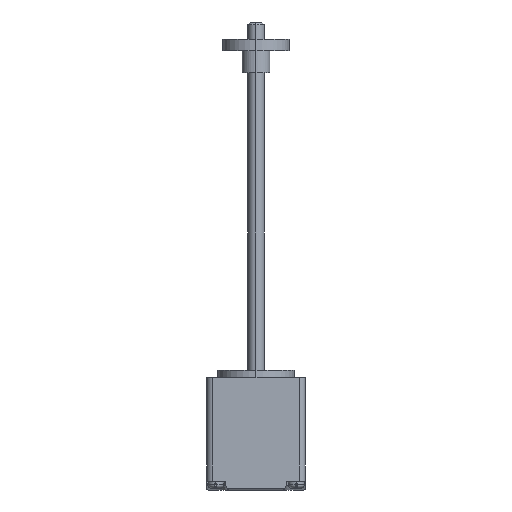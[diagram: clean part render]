
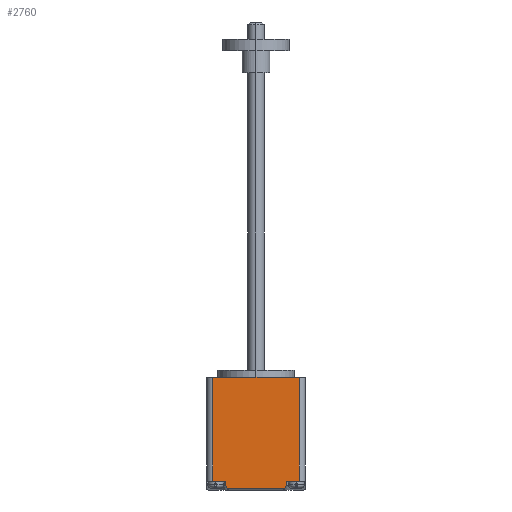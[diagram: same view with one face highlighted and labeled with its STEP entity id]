
A CAD part, left-side view. The second image highlights one B-rep face of the part: STEP entity #2760.
In plain terms, the highlighted planar face has unit normal (-1, 0, 0).
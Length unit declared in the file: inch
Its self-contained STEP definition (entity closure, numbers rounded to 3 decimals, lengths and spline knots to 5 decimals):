
#9 = VECTOR ( 'NONE', #6427, 39.37008 ) ;
#245 = LINE ( 'NONE', #3771, #5655 ) ;
#418 = ORIENTED_EDGE ( 'NONE', *, *, #1376, .F. ) ;
#517 = VERTEX_POINT ( 'NONE', #6139 ) ;
#607 = VECTOR ( 'NONE', #3156, 39.37008 ) ;
#788 = EDGE_CURVE ( 'NONE', #3969, #3251, #3159, .T. ) ;
#836 = LINE ( 'NONE', #6046, #1744 ) ;
#1112 = EDGE_CURVE ( 'NONE', #6973, #3969, #2328, .T. ) ;
#1150 = CARTESIAN_POINT ( 'NONE',  ( -0.555, -0.485, 1.268 ) ) ;
#1358 = DIRECTION ( 'NONE',  ( 0., 1., 0. ) ) ;
#1366 = CARTESIAN_POINT ( 'NONE',  ( -0.555, 0.555, 0.015 ) ) ;
#1373 = ORIENTED_EDGE ( 'NONE', *, *, #2488, .F. ) ;
#1376 = EDGE_CURVE ( 'NONE', #5072, #6931, #6063, .T. ) ;
#1386 = DIRECTION ( 'NONE',  ( 0., 1., 0. ) ) ;
#1463 = DIRECTION ( 'NONE',  ( 0., 1., 0. ) ) ;
#1720 = EDGE_CURVE ( 'NONE', #3251, #3533, #3198, .T. ) ;
#1744 = VECTOR ( 'NONE', #3258, 39.37008 ) ;
#1941 = VECTOR ( 'NONE', #2215, 39.37008 ) ;
#2025 = DIRECTION ( 'NONE',  ( 0., 0., -1. ) ) ;
#2029 = DIRECTION ( 'NONE',  ( 0., -1., 0. ) ) ;
#2201 = ORIENTED_EDGE ( 'NONE', *, *, #7326, .T. ) ;
#2215 = DIRECTION ( 'NONE',  ( 0., -0.5, -0.866 ) ) ;
#2239 = DIRECTION ( 'NONE',  ( 0., 0., 1. ) ) ;
#2328 = LINE ( 'NONE', #2913, #1941 ) ;
#2488 = EDGE_CURVE ( 'NONE', #6230, #3533, #3120, .T. ) ;
#2534 = CARTESIAN_POINT ( 'NONE',  ( -0.555, 0.555, 1.268 ) ) ;
#2548 = CARTESIAN_POINT ( 'NONE',  ( -0.555, -0.343, 0.05196 ) ) ;
#2583 = DIRECTION ( 'NONE',  ( 0., -0.5, 0.866 ) ) ;
#2618 = VERTEX_POINT ( 'NONE', #5106 ) ;
#2751 = VECTOR ( 'NONE', #2239, 39.37008 ) ;
#2760 = ADVANCED_FACE ( 'NONE', ( #4873 ), #6004, .F. ) ;
#2801 = VECTOR ( 'NONE', #1463, 39.37008 ) ;
#2913 = CARTESIAN_POINT ( 'NONE',  ( -0.555, 0.343, 0.05196 ) ) ;
#2967 = EDGE_CURVE ( 'NONE', #2618, #5340, #4635, .T. ) ;
#3120 = LINE ( 'NONE', #7175, #607 ) ;
#3156 = DIRECTION ( 'NONE',  ( 0., 0., -1. ) ) ;
#3159 = LINE ( 'NONE', #1366, #3294 ) ;
#3198 = LINE ( 'NONE', #2548, #6465 ) ;
#3247 = CARTESIAN_POINT ( 'NONE',  ( -0.555, 0.343, 0.1 ) ) ;
#3251 = VERTEX_POINT ( 'NONE', #6904 ) ;
#3258 = DIRECTION ( 'NONE',  ( 0., 0., -1. ) ) ;
#3294 = VECTOR ( 'NONE', #2029, 39.37008 ) ;
#3374 = ORIENTED_EDGE ( 'NONE', *, *, #4210, .F. ) ;
#3388 = CARTESIAN_POINT ( 'NONE',  ( -0.555, 0.343, 0.05196 ) ) ;
#3533 = VERTEX_POINT ( 'NONE', #4026 ) ;
#3558 = ORIENTED_EDGE ( 'NONE', *, *, #1112, .T. ) ;
#3771 = CARTESIAN_POINT ( 'NONE',  ( -0.555, -0.555, 0.1 ) ) ;
#3897 = ORIENTED_EDGE ( 'NONE', *, *, #1720, .T. ) ;
#3969 = VERTEX_POINT ( 'NONE', #4050 ) ;
#4026 = CARTESIAN_POINT ( 'NONE',  ( -0.555, -0.343, 0.05196 ) ) ;
#4050 = CARTESIAN_POINT ( 'NONE',  ( -0.555, 0.32166, 0.015 ) ) ;
#4162 = CARTESIAN_POINT ( 'NONE',  ( -0.555, 0.555, 1.268 ) ) ;
#4210 = EDGE_CURVE ( 'NONE', #517, #6230, #245, .T. ) ;
#4606 = EDGE_CURVE ( 'NONE', #5072, #6973, #7213, .T. ) ;
#4635 = LINE ( 'NONE', #4162, #9 ) ;
#4664 = ORIENTED_EDGE ( 'NONE', *, *, #5486, .T. ) ;
#4873 = FACE_OUTER_BOUND ( 'NONE', #7271, .T. ) ;
#5009 = CARTESIAN_POINT ( 'NONE',  ( -0.555, -0.343, 0.1 ) ) ;
#5072 = VERTEX_POINT ( 'NONE', #5174 ) ;
#5106 = CARTESIAN_POINT ( 'NONE',  ( -0.555, 0.485, 1.268 ) ) ;
#5157 = LINE ( 'NONE', #7455, #2751 ) ;
#5174 = CARTESIAN_POINT ( 'NONE',  ( -0.555, 0.343, 0.1 ) ) ;
#5340 = VERTEX_POINT ( 'NONE', #1150 ) ;
#5486 = EDGE_CURVE ( 'NONE', #2618, #6931, #836, .T. ) ;
#5516 = CARTESIAN_POINT ( 'NONE',  ( -0.555, 0.343, 0.1 ) ) ;
#5634 = ORIENTED_EDGE ( 'NONE', *, *, #788, .T. ) ;
#5655 = VECTOR ( 'NONE', #1386, 39.37008 ) ;
#5719 = ORIENTED_EDGE ( 'NONE', *, *, #4606, .T. ) ;
#5997 = AXIS2_PLACEMENT_3D ( 'NONE', #2534, #6614, #1358 ) ;
#6004 = PLANE ( 'NONE',  #5997 ) ;
#6046 = CARTESIAN_POINT ( 'NONE',  ( -0.555, 0.485, 1.268 ) ) ;
#6063 = LINE ( 'NONE', #3247, #2801 ) ;
#6139 = CARTESIAN_POINT ( 'NONE',  ( -0.555, -0.485, 0.1 ) ) ;
#6230 = VERTEX_POINT ( 'NONE', #5009 ) ;
#6427 = DIRECTION ( 'NONE',  ( 0., -1., 0. ) ) ;
#6465 = VECTOR ( 'NONE', #2583, 39.37008 ) ;
#6614 = DIRECTION ( 'NONE',  ( 1., 0., 0. ) ) ;
#6755 = VECTOR ( 'NONE', #2025, 39.37008 ) ;
#6787 = ORIENTED_EDGE ( 'NONE', *, *, #2967, .F. ) ;
#6904 = CARTESIAN_POINT ( 'NONE',  ( -0.555, -0.32166, 0.015 ) ) ;
#6931 = VERTEX_POINT ( 'NONE', #6948 ) ;
#6948 = CARTESIAN_POINT ( 'NONE',  ( -0.555, 0.485, 0.1 ) ) ;
#6973 = VERTEX_POINT ( 'NONE', #3388 ) ;
#7175 = CARTESIAN_POINT ( 'NONE',  ( -0.555, -0.343, 0.1 ) ) ;
#7213 = LINE ( 'NONE', #5516, #6755 ) ;
#7271 = EDGE_LOOP ( 'NONE', ( #5634, #3897, #1373, #3374, #2201, #6787, #4664, #418, #5719, #3558 ) ) ;
#7326 = EDGE_CURVE ( 'NONE', #517, #5340, #5157, .T. ) ;
#7455 = CARTESIAN_POINT ( 'NONE',  ( -0.555, -0.485, 1.268 ) ) ;
